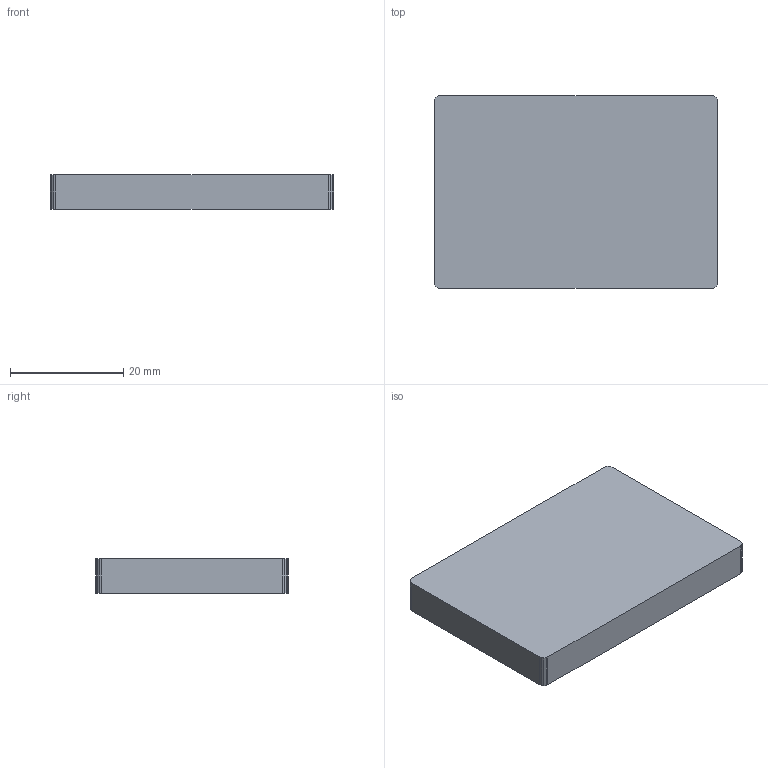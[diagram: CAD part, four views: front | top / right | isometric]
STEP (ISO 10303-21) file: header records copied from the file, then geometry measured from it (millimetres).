
FILE_DESCRIPTION(('AVO Performance Horse - montaje de la cincha (B-rep poliedrico)'),'2;1');
FILE_NAME('LiPo_603450_1000mAh','2026-11-15T12:00:00',('AVO Performance Horse'),('AVO Performance Horse'),'avo_cad.py','avo_cad.py (numpy)','');
FILE_SCHEMA(('AUTOMOTIVE_DESIGN { 1 0 10303 214 1 1 1 1 }'));
Length unit declared in the file: millimetre
Products named in the file (1): LiPo_603450_1000mAh
Bounding box: 50 x 34 x 6 mm (x, y, z)
Volume: 10194.4 mm3; surface area: 4395.6 mm2
Topology: 1 solids, 1 shells, 22 faces, 60 edges, 40 vertices
Faces by surface type: plane 22
Entity records: 539 total; most frequent: ORIENTED_EDGE 120, VECTOR 60, LINE 60, EDGE_CURVE 60, CARTESIAN_POINT 41, VERTEX_POINT 40, DIRECTION 24, AXIS2_PLACEMENT_3D 23
